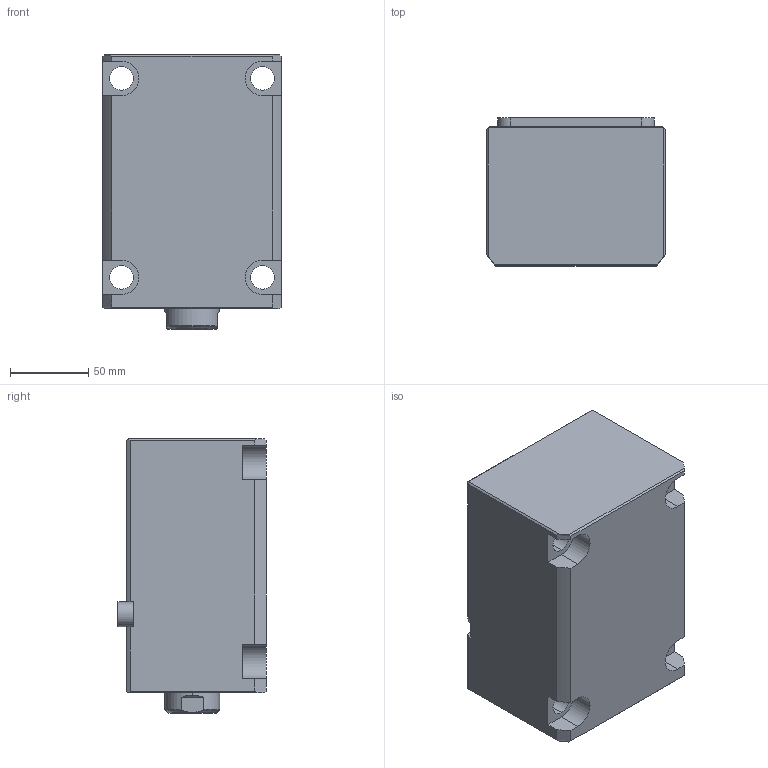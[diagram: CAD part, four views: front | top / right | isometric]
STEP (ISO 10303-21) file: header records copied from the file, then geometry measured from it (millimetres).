
FILE_DESCRIPTION (( 'STEP AP214' ), '1' );
FILE_NAME ('chtb-lam63x95n_asm.STEP', '2018-05-22T03:16:38', ( 'Windows' ), ( 'Microsoft' ), 'SwSTEP 2.0', 'SolidWorks 2015', '' );
FILE_SCHEMA (( 'AUTOMOTIVE_DESIGN' ));
Length unit declared in the file: millimetre
Products named in the file (5): CHTB-LAM63X95NBT; CHTB-LA63PJ; CHTB63X95NHSG; CHTB-63QG; chtb-lam63x95n_asm
Assembly tree (4 placements, depth 2):
  chtb-lam63x95n_asm
    CHTB-63QG
    CHTB63X95NHSG
    CHTB-LA63PJ
    CHTB-LAM63X95NBT
Bounding box: 114 x 94.5 x 175 mm (x, y, z)
Volume: 1363044.9 mm3; surface area: 182688 mm2
Topology: 4 solids, 4 shells, 183 faces, 539 edges, 366 vertices
Faces by surface type: cylinder 99, plane 55, bspline 13, cone 8, torus 8
Entity records: 19040 total; most frequent: CARTESIAN_POINT 14352, ORIENTED_EDGE 1066, DIRECTION 788, EDGE_CURVE 533, VERTEX_POINT 366, AXIS2_PLACEMENT_3D 291, LINE 206, VECTOR 206
